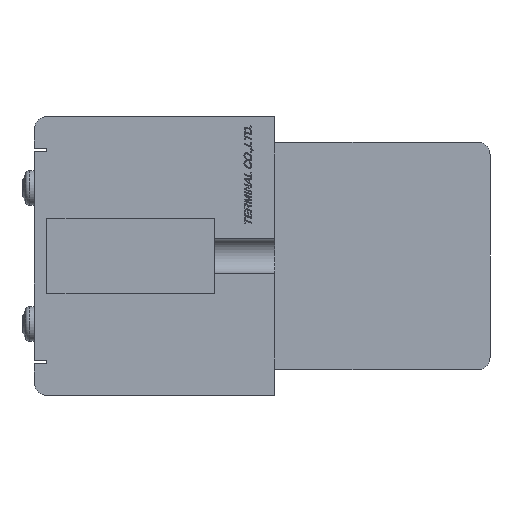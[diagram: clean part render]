
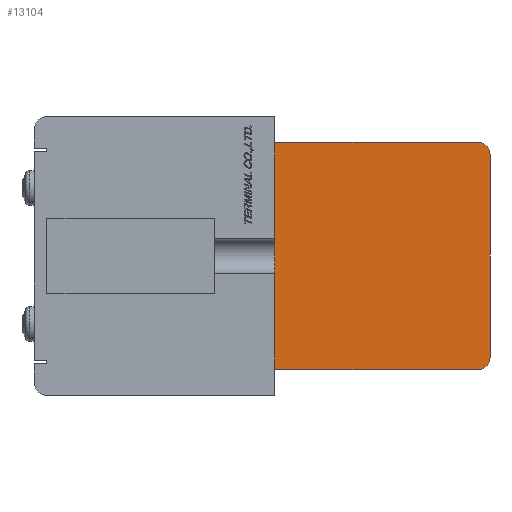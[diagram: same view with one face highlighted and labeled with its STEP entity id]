
A CAD part, left-side view. The second image highlights one B-rep face of the part: STEP entity #13104.
In plain terms, the highlighted planar face has unit normal (-1, 0, 0).
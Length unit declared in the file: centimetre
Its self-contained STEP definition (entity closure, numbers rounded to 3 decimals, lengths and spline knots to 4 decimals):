
#770=CIRCLE('',#14010,0.2);
#771=CIRCLE('',#14013,0.2);
#2067=VERTEX_POINT('',#21065);
#2068=VERTEX_POINT('',#21067);
#2075=VERTEX_POINT('',#21099);
#2076=VERTEX_POINT('',#21103);
#2077=VERTEX_POINT('',#21107);
#2078=VERTEX_POINT('',#21111);
#3371=VECTOR('',#16619,1.);
#3384=VECTOR('',#16647,1.);
#3387=VECTOR('',#16655,1.);
#3390=VECTOR('',#16663,1.);
#4679=LINE('',#21068,#3371);
#4692=LINE('',#21098,#3384);
#4695=LINE('',#21106,#3387);
#4698=LINE('',#21114,#3390);
#6660=EDGE_CURVE('',#2068,#2067,#4679,.T.);
#6675=EDGE_CURVE('',#2067,#2075,#4692,.T.);
#6677=EDGE_CURVE('',#2075,#2076,#770,.T.);
#6679=EDGE_CURVE('',#2076,#2077,#4695,.T.);
#6681=EDGE_CURVE('',#2077,#2078,#771,.T.);
#6683=EDGE_CURVE('',#2078,#2068,#4698,.T.);
#10652=ORIENTED_EDGE('',*,*,#6660,.F.);
#10653=ORIENTED_EDGE('',*,*,#6683,.F.);
#10654=ORIENTED_EDGE('',*,*,#6681,.F.);
#10655=ORIENTED_EDGE('',*,*,#6679,.F.);
#10656=ORIENTED_EDGE('',*,*,#6677,.F.);
#10657=ORIENTED_EDGE('',*,*,#6675,.F.);
#11504=EDGE_LOOP('',(#10652,#10653,#10654,#10655,#10656,#10657));
#12351=FACE_BOUND('',#11504,.T.);
#13104=ADVANCED_FACE('',(#12351),#21606,.F.);
#14010=AXIS2_PLACEMENT_3D('',#21102,#16651,#16652);
#14013=AXIS2_PLACEMENT_3D('',#21110,#16659,#16660);
#14015=AXIS2_PLACEMENT_3D('',#21115,#16664,$);
#16619=DIRECTION('',(0.,0.,1.));
#16647=DIRECTION('',(0.,-1.,0.));
#16651=DIRECTION('',(1.,0.,0.));
#16652=DIRECTION('',(0.,0.,-0.2));
#16655=DIRECTION('',(0.,0.,-1.));
#16659=DIRECTION('',(1.,0.,0.));
#16660=DIRECTION('',(0.,0.,-0.2));
#16663=DIRECTION('',(0.,1.,0.));
#16664=DIRECTION('',(1.,0.,0.));
#21065=CARTESIAN_POINT('',(-0.4,0.,1.8));
#21067=CARTESIAN_POINT('',(-0.4,0.,-1.8));
#21068=CARTESIAN_POINT('',(-0.4,0.,1.8));
#21098=CARTESIAN_POINT('',(-0.4,-3.2,1.8));
#21099=CARTESIAN_POINT('',(-0.4,-3.2,1.8));
#21102=CARTESIAN_POINT('',(-0.4,-3.2,1.6));
#21103=CARTESIAN_POINT('',(-0.4,-3.4,1.6));
#21106=CARTESIAN_POINT('',(-0.4,-3.4,-1.6));
#21107=CARTESIAN_POINT('',(-0.4,-3.4,-1.6));
#21110=CARTESIAN_POINT('',(-0.4,-3.2,-1.6));
#21111=CARTESIAN_POINT('',(-0.4,-3.2,-1.8));
#21114=CARTESIAN_POINT('',(-0.4,0.,-1.8));
#21115=CARTESIAN_POINT('',(-0.4,-1.6784,0.));
#21606=PLANE('',#14015);
